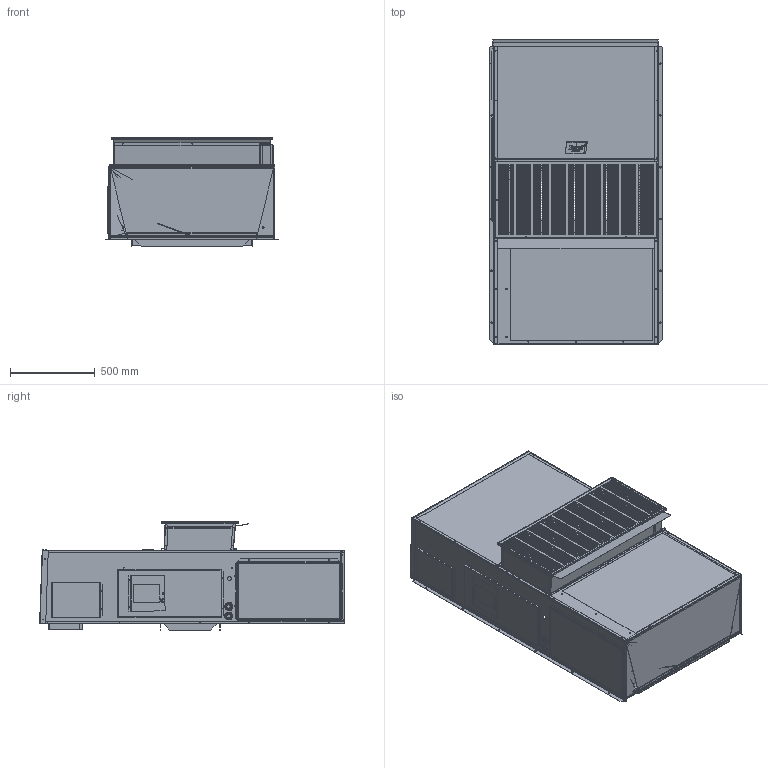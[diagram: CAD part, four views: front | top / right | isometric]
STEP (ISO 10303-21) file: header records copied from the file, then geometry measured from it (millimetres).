
FILE_DESCRIPTION (( 'STEP AP203' ), '1' );
FILE_NAME ('STEP_500_7.STEP', '2016-06-20T15:19:48', ( '' ), ( '' ), 'SwSTEP 2.0', 'SolidWorks 2016', '' );
FILE_SCHEMA (( 'CONFIG_CONTROL_DESIGN' ));
Products named in the file (1): STEP_500_7
Bounding box: 1015.56 x 1793.26 x 636.5 mm (x, y, z)
Volume: 10573736.5 mm3; surface area: 16445094.3 mm2
Topology: 77 solids, 77 shells, 11850 faces, 31198 edges, 19717 vertices
Faces by surface type: plane 5366, cylinder 3284, bspline 2755, cone 199, torus 162, sphere 84
Entity records: 486219 total; most frequent: CARTESIAN_POINT 215276, ORIENTED_EDGE 62296, DIRECTION 46658, EDGE_CURVE 31148, VERTEX_POINT 19675, LINE 17246, VECTOR 17246, AXIS2_PLACEMENT_3D 14706
